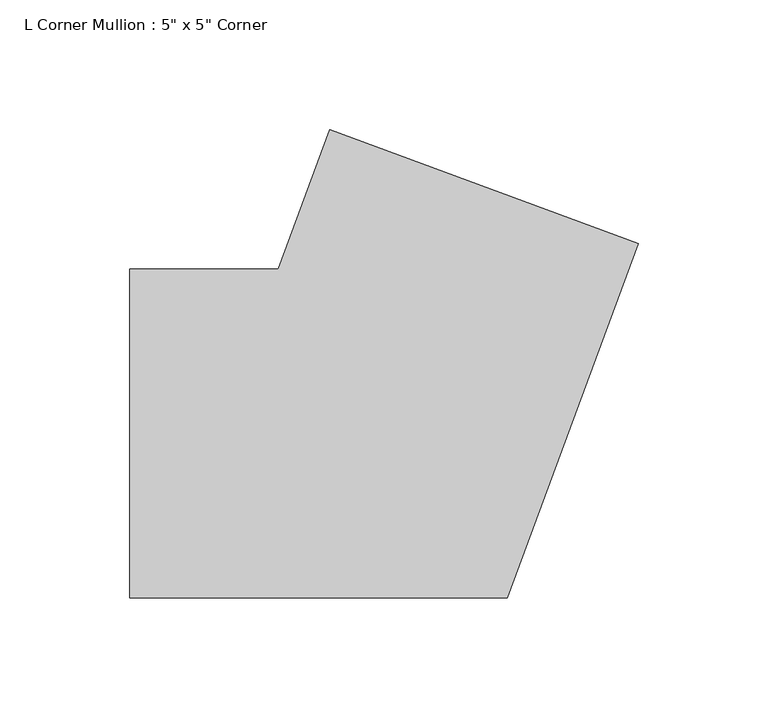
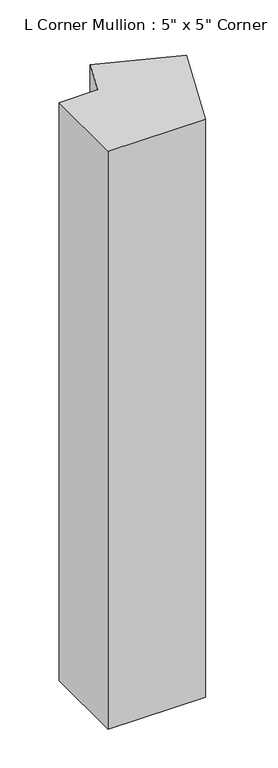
"""IFC4 building model written with IfcOpenShell, lengths in millimetres: member geometry."""

from ifc_helpers import new_model, si_unit, frame, origin, place, context, project, spatial, polyline, outline, extrude, source, transform, mapped, element, save


def member_1dd0a2fd(model_context):
    return source(origin(), model_context, "Body", "SweptSolid", [
        extrude(outline(polyline([(94.812331, 73.2491085), (44.2109125, -63.5), (-101.6, -63.5), (-101.6, 63.5), (-44.2109125, 63.5), (-24.2949188, 117.3224911), (94.812331, 73.2491085)])), frame((0.0, 0.0, -914.4), z_axis=(0.0, 0.0, 1.0), x_axis=(1.0, 0.0, 0.0)), (0.0, 0.0, 1.0), 914.4),
    ])


if __name__ == "__main__":
    model = new_model("IFC4")
    model_context = context("Model", 3, world=origin())
    ifc_project = project(units=[si_unit("LENGTHUNIT", "METRE", prefix="MILLI")], contexts=[model_context])
    site = spatial("IfcSite", under=ifc_project)
    building = spatial("IfcBuilding", under=site)
    placement = place(None, origin())
    member_shape = member_1dd0a2fd(model_context)
    element("IfcMember", 1, ObjectType="L Corner Mullion : 5\" x 5\" Corner", at=placement, inside=building, context=model_context, shape_type="MappedRepresentation", body=[
        mapped(member_shape, transform((0.0, 0.0, 0.0), x_axis=(1.0, 0.0, 0.0), y_axis=(0.0, 1.0, 0.0), z_axis=(0.0, 0.0, 1.0))),
    ])
    save(model, "model.ifc")
